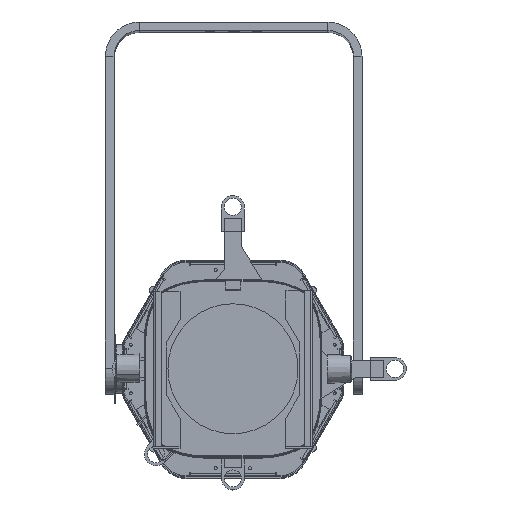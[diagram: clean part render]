
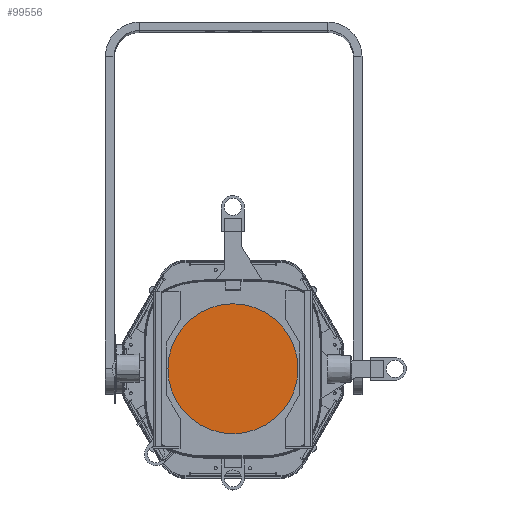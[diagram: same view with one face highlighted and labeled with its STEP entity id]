
A CAD part, top view. The second image highlights one B-rep face of the part: STEP entity #99556.
In plain terms, the highlighted planar face has unit normal (0, 0, 1).
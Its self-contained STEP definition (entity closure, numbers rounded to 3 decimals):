
#317 = EDGE_CURVE ( 'NONE', #3646, #86559, #1030, .T. ) ;
#1030 = CIRCLE ( 'NONE', #89607, 102. ) ;
#2195 = CARTESIAN_POINT ( 'NONE',  ( 0., -33., -11.2 ) ) ;
#2939 = EDGE_CURVE ( 'NONE', #47359, #112768, #20974, .T. ) ;
#3220 = CARTESIAN_POINT ( 'NONE',  ( -102., 33., -11.2 ) ) ;
#3646 = VERTEX_POINT ( 'NONE', #101977 ) ;
#3653 = DIRECTION ( 'NONE',  ( -1., 0., 0. ) ) ;
#7488 = AXIS2_PLACEMENT_3D ( 'NONE', #45688, #99921, #72793 ) ;
#7930 = DIRECTION ( 'NONE',  ( 1., 0., 0. ) ) ;
#10099 = CARTESIAN_POINT ( 'NONE',  ( -33., 0., -11.2 ) ) ;
#11289 = CARTESIAN_POINT ( 'NONE',  ( 86.712, -86.712, -11.2 ) ) ;
#12731 = ORIENTED_EDGE ( 'NONE', *, *, #37441, .F. ) ;
#12914 = EDGE_CURVE ( 'NONE', #61063, #46074, #26820, .T. ) ;
#13424 = AXIS2_PLACEMENT_3D ( 'NONE', #50117, #32033, #113382 ) ;
#13474 = EDGE_CURVE ( 'NONE', #112768, #79494, #96245, .T. ) ;
#13653 = AXIS2_PLACEMENT_3D ( 'NONE', #2195, #29984, #66749 ) ;
#13723 = DIRECTION ( 'NONE',  ( -1., 0., 0. ) ) ;
#14582 = EDGE_CURVE ( 'NONE', #92756, #47359, #33828, .T. ) ;
#15138 = CARTESIAN_POINT ( 'NONE',  ( 0., -33., -11.2 ) ) ;
#15222 = ORIENTED_EDGE ( 'NONE', *, *, #65232, .F. ) ;
#15858 = ORIENTED_EDGE ( 'NONE', *, *, #118415, .F. ) ;
#20226 = AXIS2_PLACEMENT_3D ( 'NONE', #15138, #107392, #26031 ) ;
#20974 = CIRCLE ( 'NONE', #24873, 102. ) ;
#22362 = CARTESIAN_POINT ( 'NONE',  ( -33., 0., -11.2 ) ) ;
#24790 = ORIENTED_EDGE ( 'NONE', *, *, #14582, .F. ) ;
#24873 = AXIS2_PLACEMENT_3D ( 'NONE', #34113, #32329, #87723 ) ;
#26031 = DIRECTION ( 'NONE',  ( -1., 0., 0. ) ) ;
#26477 = VECTOR ( 'NONE', #13723, 1000. ) ;
#26698 = CARTESIAN_POINT ( 'NONE',  ( 102., 33., -11.2 ) ) ;
#26820 = CIRCLE ( 'NONE', #7488, 102. ) ;
#29273 = DIRECTION ( 'NONE',  ( -1., 0., 0. ) ) ;
#29984 = DIRECTION ( 'NONE',  ( 0., 0., -1. ) ) ;
#31625 = DIRECTION ( 'NONE',  ( 0., 1., 0. ) ) ;
#32033 = DIRECTION ( 'NONE',  ( 0., 0., -1. ) ) ;
#32329 = DIRECTION ( 'NONE',  ( 0., 0., -1. ) ) ;
#33828 = LINE ( 'NONE', #3220, #96061 ) ;
#34113 = CARTESIAN_POINT ( 'NONE',  ( 0., 33., -11.2 ) ) ;
#37441 = EDGE_CURVE ( 'NONE', #79494, #71295, #101945, .T. ) ;
#41943 = DIRECTION ( 'NONE',  ( -1., 0., 0. ) ) ;
#44092 = VECTOR ( 'NONE', #72933, 1000. ) ;
#45688 = CARTESIAN_POINT ( 'NONE',  ( 0., 33., -11.2 ) ) ;
#45932 = EDGE_CURVE ( 'NONE', #46074, #115358, #64515, .T. ) ;
#46074 = VERTEX_POINT ( 'NONE', #26698 ) ;
#47359 = VERTEX_POINT ( 'NONE', #111486 ) ;
#47917 = ORIENTED_EDGE ( 'NONE', *, *, #317, .F. ) ;
#49273 = AXIS2_PLACEMENT_3D ( 'NONE', #107012, #96778, #41943 ) ;
#50094 = ORIENTED_EDGE ( 'NONE', *, *, #2939, .F. ) ;
#50117 = CARTESIAN_POINT ( 'NONE',  ( -33., 0., -11.2 ) ) ;
#51383 = CARTESIAN_POINT ( 'NONE',  ( -33., 102., -11.2 ) ) ;
#53360 = CARTESIAN_POINT ( 'NONE',  ( 86.712, 86.712, -11.2 ) ) ;
#53803 = CARTESIAN_POINT ( 'NONE',  ( 33., 102., -11.2 ) ) ;
#61063 = VERTEX_POINT ( 'NONE', #53360 ) ;
#64446 = FACE_OUTER_BOUND ( 'NONE', #69565, .T. ) ;
#64515 = LINE ( 'NONE', #100067, #44092 ) ;
#64535 = EDGE_CURVE ( 'NONE', #71295, #61063, #72419, .T. ) ;
#64848 = ORIENTED_EDGE ( 'NONE', *, *, #115657, .F. ) ;
#65232 = EDGE_CURVE ( 'NONE', #70740, #3646, #87264, .T. ) ;
#65617 = DIRECTION ( 'NONE',  ( -1., 0., 0. ) ) ;
#66749 = DIRECTION ( 'NONE',  ( -1., 0., 0. ) ) ;
#69399 = DIRECTION ( 'NONE',  ( 0., 0., -1. ) ) ;
#69565 = EDGE_LOOP ( 'NONE', ( #73555, #64848, #92568, #79936, #114621, #12731, #95903, #50094, #24790, #15858, #47917, #15222 ) ) ;
#70740 = VERTEX_POINT ( 'NONE', #76711 ) ;
#71295 = VERTEX_POINT ( 'NONE', #94050 ) ;
#72419 = CIRCLE ( 'NONE', #49273, 102. ) ;
#72793 = DIRECTION ( 'NONE',  ( -1., 0., 0. ) ) ;
#72933 = DIRECTION ( 'NONE',  ( 0., -1., 0. ) ) ;
#73555 = ORIENTED_EDGE ( 'NONE', *, *, #100080, .F. ) ;
#76654 = AXIS2_PLACEMENT_3D ( 'NONE', #10099, #91515, #65617 ) ;
#76711 = CARTESIAN_POINT ( 'NONE',  ( 33., -102., -11.2 ) ) ;
#78723 = CIRCLE ( 'NONE', #103651, 102. ) ;
#79494 = VERTEX_POINT ( 'NONE', #51383 ) ;
#79936 = ORIENTED_EDGE ( 'NONE', *, *, #12914, .F. ) ;
#82050 = CARTESIAN_POINT ( 'NONE',  ( -86.712, 86.712, -11.2 ) ) ;
#84679 = DIRECTION ( 'NONE',  ( 0., 0., -1. ) ) ;
#86559 = VERTEX_POINT ( 'NONE', #104415 ) ;
#87264 = LINE ( 'NONE', #96345, #26477 ) ;
#87723 = DIRECTION ( 'NONE',  ( -1., 0., 0. ) ) ;
#88909 = CARTESIAN_POINT ( 'NONE',  ( 102., -33., -11.2 ) ) ;
#89607 = AXIS2_PLACEMENT_3D ( 'NONE', #22362, #69399, #3653 ) ;
#91515 = DIRECTION ( 'NONE',  ( 0., 0., -1. ) ) ;
#92568 = ORIENTED_EDGE ( 'NONE', *, *, #45932, .F. ) ;
#92756 = VERTEX_POINT ( 'NONE', #97048 ) ;
#94050 = CARTESIAN_POINT ( 'NONE',  ( 33., 102., -11.2 ) ) ;
#95903 = ORIENTED_EDGE ( 'NONE', *, *, #13474, .F. ) ;
#96061 = VECTOR ( 'NONE', #31625, 1000. ) ;
#96245 = CIRCLE ( 'NONE', #13424, 102. ) ;
#96345 = CARTESIAN_POINT ( 'NONE',  ( -33., -102., -11.2 ) ) ;
#96778 = DIRECTION ( 'NONE',  ( 0., 0., -1. ) ) ;
#97048 = CARTESIAN_POINT ( 'NONE',  ( -102., -33., -11.2 ) ) ;
#99556 = ADVANCED_FACE ( 'NONE', ( #64446 ), #101754, .F. ) ;
#99921 = DIRECTION ( 'NONE',  ( 0., 0., -1. ) ) ;
#100067 = CARTESIAN_POINT ( 'NONE',  ( 102., -33., -11.2 ) ) ;
#100080 = EDGE_CURVE ( 'NONE', #101136, #70740, #78723, .T. ) ;
#100437 = CARTESIAN_POINT ( 'NONE',  ( 33., 0., -11.2 ) ) ;
#101136 = VERTEX_POINT ( 'NONE', #11289 ) ;
#101307 = VECTOR ( 'NONE', #7930, 1000. ) ;
#101754 = PLANE ( 'NONE',  #76654 ) ;
#101945 = LINE ( 'NONE', #53803, #101307 ) ;
#101977 = CARTESIAN_POINT ( 'NONE',  ( -33., -102., -11.2 ) ) ;
#102217 = CIRCLE ( 'NONE', #13653, 102. ) ;
#103651 = AXIS2_PLACEMENT_3D ( 'NONE', #100437, #84679, #29273 ) ;
#104415 = CARTESIAN_POINT ( 'NONE',  ( -86.712, -86.712, -11.2 ) ) ;
#107012 = CARTESIAN_POINT ( 'NONE',  ( 33., 0., -11.2 ) ) ;
#107392 = DIRECTION ( 'NONE',  ( 0., 0., -1. ) ) ;
#111486 = CARTESIAN_POINT ( 'NONE',  ( -102., 33., -11.2 ) ) ;
#112768 = VERTEX_POINT ( 'NONE', #82050 ) ;
#113382 = DIRECTION ( 'NONE',  ( -1., 0., 0. ) ) ;
#114621 = ORIENTED_EDGE ( 'NONE', *, *, #64535, .F. ) ;
#115358 = VERTEX_POINT ( 'NONE', #88909 ) ;
#115657 = EDGE_CURVE ( 'NONE', #115358, #101136, #116445, .T. ) ;
#116445 = CIRCLE ( 'NONE', #20226, 102. ) ;
#118415 = EDGE_CURVE ( 'NONE', #86559, #92756, #102217, .T. ) ;
